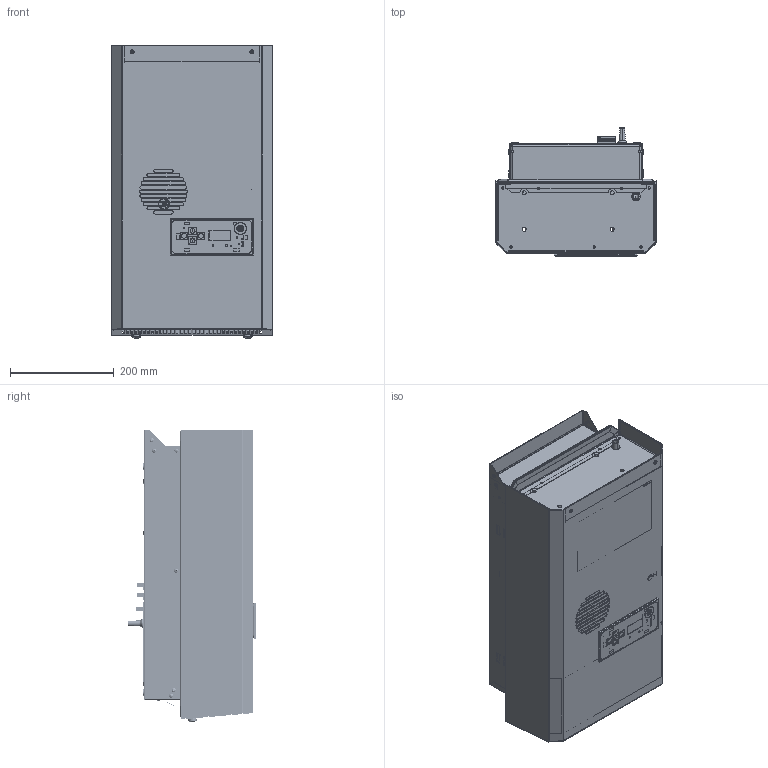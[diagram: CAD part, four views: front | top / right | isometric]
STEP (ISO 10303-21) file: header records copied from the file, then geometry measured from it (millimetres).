
FILE_DESCRIPTION (( 'STEP AP203' ), '1' );
FILE_NAME ('DTI 9031.STEP', '2010-01-12T12:31:16', ( ' ' ), ( ' ' ), 'SwSTEP 2.0', 'SolidWorks 2009', '' );
FILE_SCHEMA (( 'CONFIG_CONTROL_DESIGN' ));
Products named in the file (56): 30132-061_30132-061 eingebaut; 30132-104; 30132-011; Blindnietmutter  Sechskant offen_020140030 M6x14,5 6kt offen St; 30132-110; 30132-040; 050200750 Klipse 10mm Rohr; Fühler TLK- Ventil; 30132-013; 30132-019; 020600014 1,63m 30132-102; 025416705 Wago 231-605_019-000; 30015-086; 025300250 Knickschutztülle; Schild E-Kennzeichnung_Schild X50; 30132-111_000800879 Haubengruppe DTI 9031 MC RAL 7035; 30132-026; DTI 9031; 30132-101_000800881 DTI 9031 230V MC montiert; 30132-102_000800880 DTI 9031 230V MC vormontiert; 30132-105_000721090 Trennwand vorm 230V MC; 30132-024; 30132-049; 30132-018; 015000012 0,32m 30132-105; 30132-060_30132-060 eingebaut; 015073624 488x73x3mm Gehäusegruppe DTI 9031_015073624 eingebaut; Vulkangitter_005079103  225x225; 30132-030; 30132-042; 30132-043; Blindniet_020140201  4.0x11 K12 Maxi; 30132-052; 30132-103_000800556 DTI 9031 230V; 015000012 0,27m Bodengruppe DTI 9031; 30065-355; Blindniet_020140207  4.0x10 K8 Al-A2; 025500841 Wago 231-603_019-000; 11189-479_085170829 Anschlussbild DTx9x31 115_230V; 11189-405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
Assembly tree (81 placements, depth 6):
  DTI 9031
    30132-101_000800881 DTI 9031 230V MC montiert
      11189-405
      025500849 Wago 231-606_019-000
      30132-023
      Schild E-Kennzeichnung_Schild X50  x3
      30132-102_000800880 DTI 9031 230V MC vormontiert
        30132-103_000800556 DTI 9031 230V
          015000012 0,27m Bodengruppe DTI 9031
          30132-013
          30132-019
        Blindniet_020140207  4.0x10 K8 Al-A2  x15
        025416705 Wago 231-605_019-000
        30132-105_000721090 Trennwand vorm 230V MC
          30132-018
          30132-012
          015000012 0,32m 30132-105
          30132-061_30132-061 eingebaut
          30132-024
            30132-024
            30132-049
        30132-104
          30132-060_30132-060 eingebaut
          015073624 488x73x3mm Gehäusegruppe DTI 9031_015073624 eingebaut  x2
          Blindniet_020140201  4.0x11 K12 Maxi  x4
          Vulkangitter_005079103  225x225
          Blindnietmutter  Sechskant offen_020140030 M6x14,5 6kt offen St  x4
          30132-011
            30132-011
          30132-052
            30132-052
          30132-110
            (unnamed)
            050200750 Klipse 10mm Rohr
            30132-043
            Fühler TLK- Ventil
            30132-040
            30132-030
            30132-042
        020600014 1,63m 30132-102
        30015-086
        30065-355
        025500841 Wago 231-603_019-000
      025300250 Knickschutztülle
      11189-479_085170829 Anschlussbild DTx9x31 115_230V
    30132-111_000800879 Haubengruppe DTI 9031 MC RAL 7035
      015073086_eingebaut DTS 9031
      Federringe - DIN 127_020200110  Federring B4,0 St zn  DIN 127  x2
      Plain Washer Grade A_Pfannenberg GmbH_Washer DIN 125 - A 8.4  x2
      Flachkopfschraube mit Kreutzschlitz - DIN EN ISO 7045_ISO 7045 - M8 x 16 - Z --- 16N  x2
      11189-337_085000821 Schild DIP-Schalter Cod.
      000721009 Bedieneinheit
      085110010  Erdungssymbol Ø8
      30132-026
        020142110_Flachstecker_
        30132-026
Bounding box: 310 x 247.39 x 563.31 mm (x, y, z)
Volume: 3143577.7 mm3; surface area: 3250376.9 mm2
Topology: 166 solids, 167 shells, 5480 faces, 13949 edges, 8956 vertices
Faces by surface type: plane 3129, cylinder 1516, bspline 519, sphere 118, torus 100, cone 98
Entity records: 182808 total; most frequent: CARTESIAN_POINT 54127, ORIENTED_EDGE 25702, DIRECTION 23771, EDGE_CURVE 12851, LINE 8791, VECTOR 8791, VERTEX_POINT 8263, AXIS2_PLACEMENT_3D 7490
